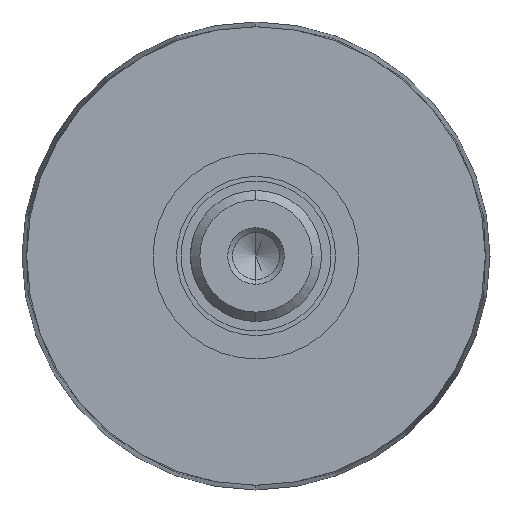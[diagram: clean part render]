
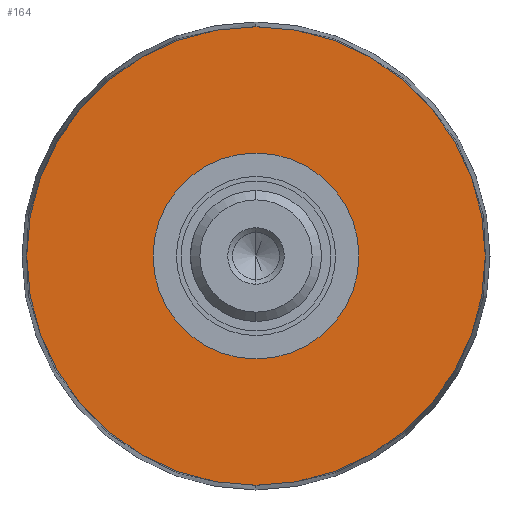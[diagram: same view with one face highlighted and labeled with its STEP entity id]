
A CAD part, left-side view. The second image highlights one B-rep face of the part: STEP entity #164.
In plain terms, the highlighted planar face has unit normal (-1, 0, 0).
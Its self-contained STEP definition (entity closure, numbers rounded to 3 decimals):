
#106 = VERTEX_POINT ( 'NONE', #512 ) ;
#110 = VERTEX_POINT ( 'NONE', #515 ) ;
#116 = EDGE_CURVE ( 'NONE', #124, #106, #506, .T. ) ;
#124 = VERTEX_POINT ( 'NONE', #552 ) ;
#139 = EDGE_CURVE ( 'NONE', #140, #110, #585, .T. ) ;
#140 = VERTEX_POINT ( 'NONE', #581 ) ;
#156 = ORIENTED_EDGE ( 'NONE', *, *, #186, .F. ) ;
#161 = EDGE_LOOP ( 'NONE', ( #1178, #156 ) ) ;
#164 = ADVANCED_FACE ( 'NONE', ( #597, #596 ), #595, .F. ) ;
#182 = EDGE_CURVE ( 'NONE', #106, #124, #686, .T. ) ;
#186 = EDGE_CURVE ( 'NONE', #110, #140, #680, .T. ) ;
#479 = AXIS2_PLACEMENT_3D ( 'NONE', #559, #558, #557 ) ;
#506 = CIRCLE ( 'NONE', #479, 24.5 ) ;
#512 = CARTESIAN_POINT ( 'NONE',  ( 99.5, 0., -24.5 ) ) ;
#515 = CARTESIAN_POINT ( 'NONE',  ( 99.5, 0., -11. ) ) ;
#552 = CARTESIAN_POINT ( 'NONE',  ( 99.5, 0., 24.5 ) ) ;
#557 = DIRECTION ( 'NONE',  ( 0., 0., 1. ) ) ;
#558 = DIRECTION ( 'NONE',  ( -1., 0., 0. ) ) ;
#559 = CARTESIAN_POINT ( 'NONE',  ( 99.5, 0., 0. ) ) ;
#569 = DIRECTION ( 'NONE',  ( 0., 0., 1. ) ) ;
#570 = DIRECTION ( 'NONE',  ( -1., 0., 0. ) ) ;
#571 = CARTESIAN_POINT ( 'NONE',  ( 99.5, 0., 0. ) ) ;
#572 = AXIS2_PLACEMENT_3D ( 'NONE', #571, #570, #569 ) ;
#581 = CARTESIAN_POINT ( 'NONE',  ( 99.5, 0., 11. ) ) ;
#585 = CIRCLE ( 'NONE', #572, 11. ) ;
#595 = PLANE ( 'NONE',  #599 ) ;
#596 = FACE_OUTER_BOUND ( 'NONE', #1179, .T. ) ;
#597 = FACE_BOUND ( 'NONE', #161, .T. ) ;
#599 = AXIS2_PLACEMENT_3D ( 'NONE', #623, #650, #649 ) ;
#623 = CARTESIAN_POINT ( 'NONE',  ( 99.5, 24.5, 0. ) ) ;
#649 = DIRECTION ( 'NONE',  ( 0., 0., -1. ) ) ;
#650 = DIRECTION ( 'NONE',  ( 1., 0., 0. ) ) ;
#669 = DIRECTION ( 'NONE',  ( 0., 0., 1. ) ) ;
#670 = DIRECTION ( 'NONE',  ( -1., 0., 0. ) ) ;
#671 = CARTESIAN_POINT ( 'NONE',  ( 99.5, 0., 0. ) ) ;
#673 = AXIS2_PLACEMENT_3D ( 'NONE', #671, #670, #669 ) ;
#676 = DIRECTION ( 'NONE',  ( 0., 0., 1. ) ) ;
#677 = DIRECTION ( 'NONE',  ( -1., 0., 0. ) ) ;
#678 = AXIS2_PLACEMENT_3D ( 'NONE', #688, #677, #676 ) ;
#680 = CIRCLE ( 'NONE', #673, 11. ) ;
#686 = CIRCLE ( 'NONE', #678, 24.5 ) ;
#688 = CARTESIAN_POINT ( 'NONE',  ( 99.5, 0., 0. ) ) ;
#957 = ORIENTED_EDGE ( 'NONE', *, *, #116, .T. ) ;
#1178 = ORIENTED_EDGE ( 'NONE', *, *, #139, .F. ) ;
#1179 = EDGE_LOOP ( 'NONE', ( #1181, #957 ) ) ;
#1181 = ORIENTED_EDGE ( 'NONE', *, *, #182, .T. ) ;
